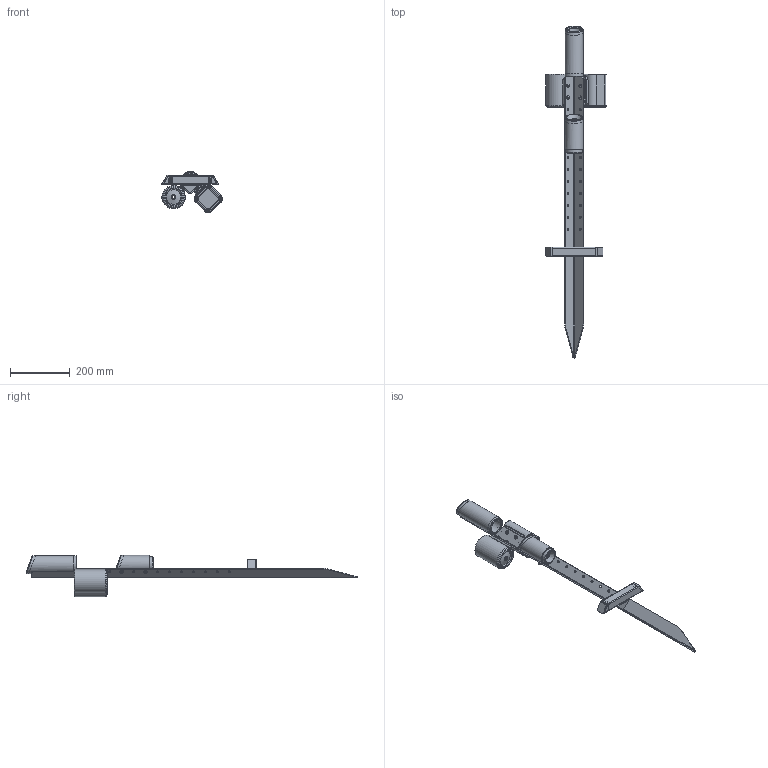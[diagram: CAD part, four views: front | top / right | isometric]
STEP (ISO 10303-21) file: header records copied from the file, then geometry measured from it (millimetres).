
FILE_DESCRIPTION (( 'STEP AP214' ), '1' );
FILE_NAME ('MONO_038-a200_02.STEP', '2026-03-24T01:45:00', ( '' ), ( '' ), 'SwSTEP 2.0', 'SolidWorks 2024', '' );
FILE_SCHEMA (( 'AUTOMOTIVE_DESIGN' ));
Length unit declared in the file: millimetre
Products named in the file (25): MONO_038-a210; MONO_038-a225; MONO_038-a220; MONO_038-p222; MONO_038-p201; M6 x 12mm BUT Head Screw_12mm; MONO_038-p231; MONO_038-a215; MONO_038-p221; MONO_038-p216_Default<As Machined>; M6 x 12 x 1.6 Washer; MONO_038-a200_02; MONO_038-p202_Default<As Machined>; MONO_038-a230; MONO_038-p209_Default<As Machined>; MONO_038-a205; MONO_038-p228; MONO_038-p232; MONO_038-p203; MONO_038-p217; M6 Thin Nut_M6; MONO_038-p227; MONO_038-p204; MONO_038-p226; MONO_038-p206
Assembly tree (47 placements, depth 5):
  MONO_038-a200_02
    M6 x 12mm BUT Head Screw_12mm  x8
    M6 x 12 x 1.6 Washer  x8
    MONO_038-a205
      MONO_038-a210
        MONO_038-a220
          MONO_038-p202_Default<As Machined>
          MONO_038-p209_Default<As Machined>
          MONO_038-p222  x2
        MONO_038-p221
      MONO_038-p206
    MONO_038-a215
      MONO_038-p216_Default<As Machined>
      MONO_038-p217
      M6 Thin Nut_M6  x4
    MONO_038-p203  x2
    MONO_038-p201
    MONO_038-p204
    MONO_038-a225
      MONO_038-p226
      MONO_038-p227
      M6 Thin Nut_M6  x2
    MONO_038-a230
      MONO_038-p231
      MONO_038-p232
      M6 Thin Nut_M6  x2
    MONO_038-p228
Bounding box: 202.77 x 1110.2 x 137.65 mm (x, y, z)
Volume: 1020901.8 mm3; surface area: 543391.4 mm2
Topology: 41 solids, 41 shells, 1225 faces, 2961 edges, 1889 vertices
Faces by surface type: plane 727, cylinder 280, torus 92, bspline 65, cone 45, sphere 16
Full cylindrical faces by diameter (mm): 5.9 x4, 6 x16, 6.5 x4, 6.8 x8, 8 x39, 8.5 x2, 10 x3, 10.3 x8, 12 x8, 14 x1, 45.025 x1, 46.5 x2, 52.5 x3, 53.1 x2, 58 x1, 60.3 x5, 68 x1, 78 x1
Entity records: 35476 total; most frequent: CARTESIAN_POINT 13903, ORIENTED_EDGE 4254, DIRECTION 4129, EDGE_CURVE 2127, AXIS2_PLACEMENT_3D 1428, VERTEX_POINT 1412, LINE 1273, VECTOR 1273
